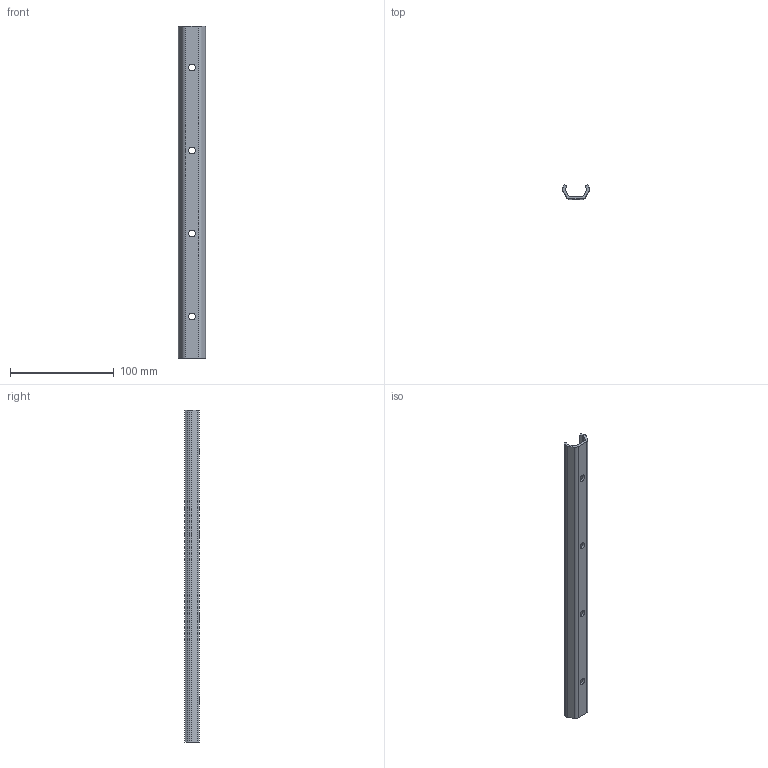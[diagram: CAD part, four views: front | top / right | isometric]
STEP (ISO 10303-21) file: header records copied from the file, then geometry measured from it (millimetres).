
FILE_DESCRIPTION(('STEP AP214'),'1');
FILE_NAME('rail_tex26-320.stp','2019-03-08T08:28:46',('TraceParts'),('TraceParts S.A.'),'Spatial InterOp 3D',' ',' ');
FILE_SCHEMA(('automotive_design'));
Length unit declared in the file: millimetre
Products named in the file (1): rail_tex26-320
Bounding box: 26.06 x 14 x 320 mm (x, y, z)
Volume: 33128.8 mm3; surface area: 28395.1 mm2
Topology: 1 solids, 1 shells, 91 faces, 240 edges, 160 vertices
Faces by surface type: plane 60, cylinder 20, bspline 11
Entity records: 5253 total; most frequent: CARTESIAN_POINT 2259, ORIENTED_EDGE 480, DIRECTION 420, EDGE_CURVE 240, LINE 178, VECTOR 178, VERTEX_POINT 160, AXIS2_PLACEMENT_3D 121
